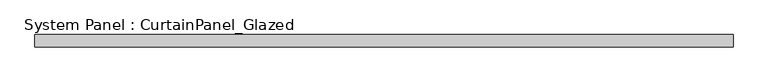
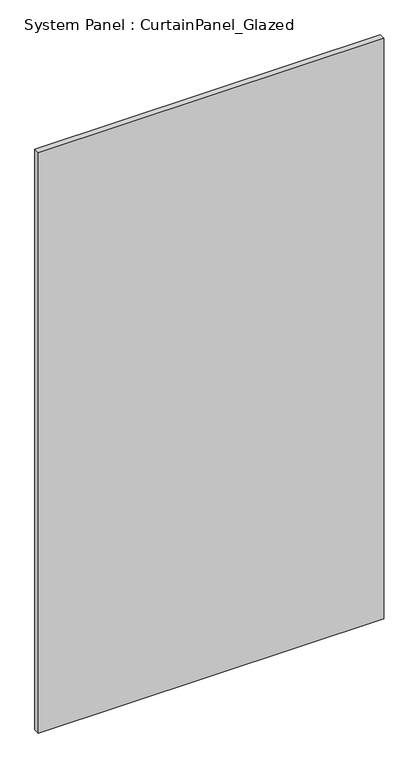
"""IFC4 building model written with IfcOpenShell, lengths in millimetres: plate geometry, System Panel : CurtainPanel_Glazed."""

from ifc_helpers import new_model, si_unit, origin, origin_with_axes, place, context, project, spatial, polyline, outline, extrude, source, transform, mapped, element, save


def system_panel_curtainpanel_glazed_d09689ee(model_context):
    return source(origin(), model_context, "Body", "SweptSolid", [
        extrude(outline(polyline([(718.0555557, -12.5), (-718.0555557, -12.5), (-718.0555557, 12.5), (718.0555557, 12.5), (718.0555557, -12.5)])), origin_with_axes(), (0.0, 0.0, 1.0), 2550.0),
    ])


if __name__ == "__main__":
    model = new_model("IFC4")
    model_context = context("Model", 3, world=origin())
    ifc_project = project(units=[si_unit("LENGTHUNIT", "METRE", prefix="MILLI")], contexts=[model_context])
    site = spatial("IfcSite", under=ifc_project)
    building = spatial("IfcBuilding", under=site)
    placement = place(None, origin())
    system_panel_curtainpanel_glazed_shape = system_panel_curtainpanel_glazed_d09689ee(model_context)
    element("IfcPlate", 1, ObjectType="System Panel : CurtainPanel_Glazed", at=placement, inside=building, context=model_context, shape_type="MappedRepresentation", body=[
        mapped(system_panel_curtainpanel_glazed_shape, transform((0.0, 0.0, 0.0), x_axis=(1.0, 0.0, 0.0), y_axis=(0.0, 1.0, 0.0), z_axis=(0.0, 0.0, 1.0))),
    ])
    save(model, "model.ifc")
